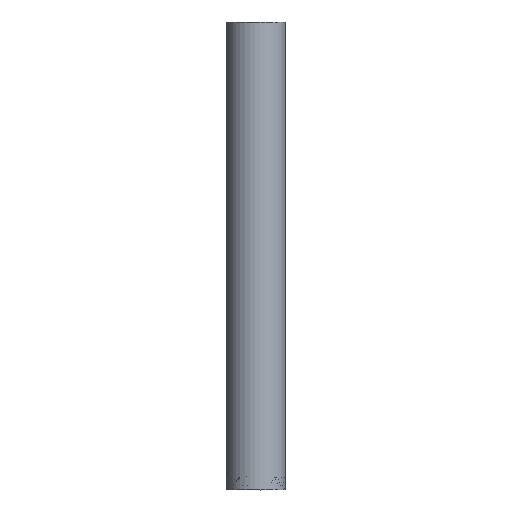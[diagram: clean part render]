
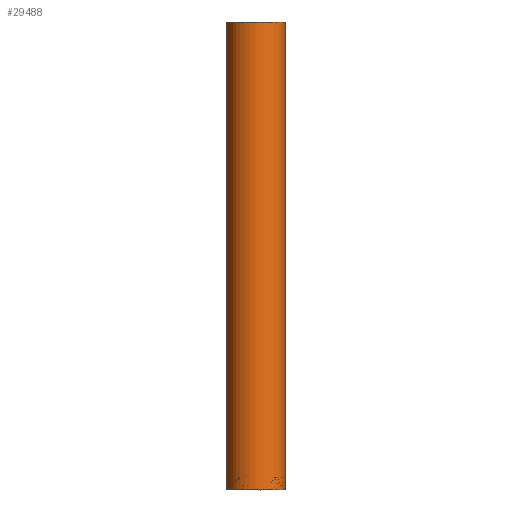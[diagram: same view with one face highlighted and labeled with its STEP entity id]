
A CAD part, left-side view. The second image highlights one B-rep face of the part: STEP entity #29488.
In plain terms, the highlighted cylindrical face has radius 28.25 mm (diameter 56.5 mm), a partial arc.
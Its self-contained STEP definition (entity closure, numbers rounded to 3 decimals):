
#571 = CARTESIAN_POINT ( 'NONE',  ( 0., 0., 0. ) ) ;
#1170 = CARTESIAN_POINT ( 'NONE',  ( 0., 0., 28.25 ) ) ;
#2645 = EDGE_CURVE ( 'NONE', #21952, #15136, #19287, .T. ) ;
#3130 = LINE ( 'NONE', #9356, #36018 ) ;
#4158 = DIRECTION ( 'NONE',  ( 0., 0., -1. ) ) ;
#4637 = FACE_OUTER_BOUND ( 'NONE', #29573, .T. ) ;
#6495 = AXIS2_PLACEMENT_3D ( 'NONE', #571, #15849, #33992 ) ;
#6732 = DIRECTION ( 'NONE',  ( 0., -1., 0. ) ) ;
#7264 = DIRECTION ( 'NONE',  ( 0., 0., -1. ) ) ;
#9090 = CIRCLE ( 'NONE', #6495, 28.25 ) ;
#9356 = CARTESIAN_POINT ( 'NONE',  ( 0., 0., -28.25 ) ) ;
#10192 = DIRECTION ( 'NONE',  ( 0., -1., 0. ) ) ;
#12890 = AXIS2_PLACEMENT_3D ( 'NONE', #14017, #10192, #4158 ) ;
#14017 = CARTESIAN_POINT ( 'NONE',  ( 0., 450., 0. ) ) ;
#14275 = ORIENTED_EDGE ( 'NONE', *, *, #23672, .T. ) ;
#15136 = VERTEX_POINT ( 'NONE', #24290 ) ;
#15849 = DIRECTION ( 'NONE',  ( 0., -1., 0. ) ) ;
#16108 = ORIENTED_EDGE ( 'NONE', *, *, #23866, .T. ) ;
#16343 = ORIENTED_EDGE ( 'NONE', *, *, #29084, .F. ) ;
#16521 = VECTOR ( 'NONE', #25938, 1000. ) ;
#16918 = DIRECTION ( 'NONE',  ( 0., -1., 0. ) ) ;
#17409 = VERTEX_POINT ( 'NONE', #22337 ) ;
#19287 = LINE ( 'NONE', #1170, #16521 ) ;
#19349 = CARTESIAN_POINT ( 'NONE',  ( 0., 0., 0. ) ) ;
#21952 = VERTEX_POINT ( 'NONE', #24282 ) ;
#22337 = CARTESIAN_POINT ( 'NONE',  ( 0., 450., -28.25 ) ) ;
#23672 = EDGE_CURVE ( 'NONE', #21952, #17409, #36694, .T. ) ;
#23866 = EDGE_CURVE ( 'NONE', #17409, #31386, #3130, .T. ) ;
#24282 = CARTESIAN_POINT ( 'NONE',  ( 0., 450., 28.25 ) ) ;
#24290 = CARTESIAN_POINT ( 'NONE',  ( 0., 0., 28.25 ) ) ;
#25798 = CYLINDRICAL_SURFACE ( 'NONE', #39323, 28.25 ) ;
#25938 = DIRECTION ( 'NONE',  ( 0., -1., 0. ) ) ;
#29084 = EDGE_CURVE ( 'NONE', #15136, #31386, #9090, .T. ) ;
#29488 = ADVANCED_FACE ( 'NONE', ( #4637 ), #25798, .T. ) ;
#29573 = EDGE_LOOP ( 'NONE', ( #37917, #14275, #16108, #16343 ) ) ;
#31386 = VERTEX_POINT ( 'NONE', #32504 ) ;
#32504 = CARTESIAN_POINT ( 'NONE',  ( 0., 0., -28.25 ) ) ;
#33992 = DIRECTION ( 'NONE',  ( 0., 0., -1. ) ) ;
#36018 = VECTOR ( 'NONE', #6732, 1000. ) ;
#36694 = CIRCLE ( 'NONE', #12890, 28.25 ) ;
#37917 = ORIENTED_EDGE ( 'NONE', *, *, #2645, .F. ) ;
#39323 = AXIS2_PLACEMENT_3D ( 'NONE', #19349, #16918, #7264 ) ;
